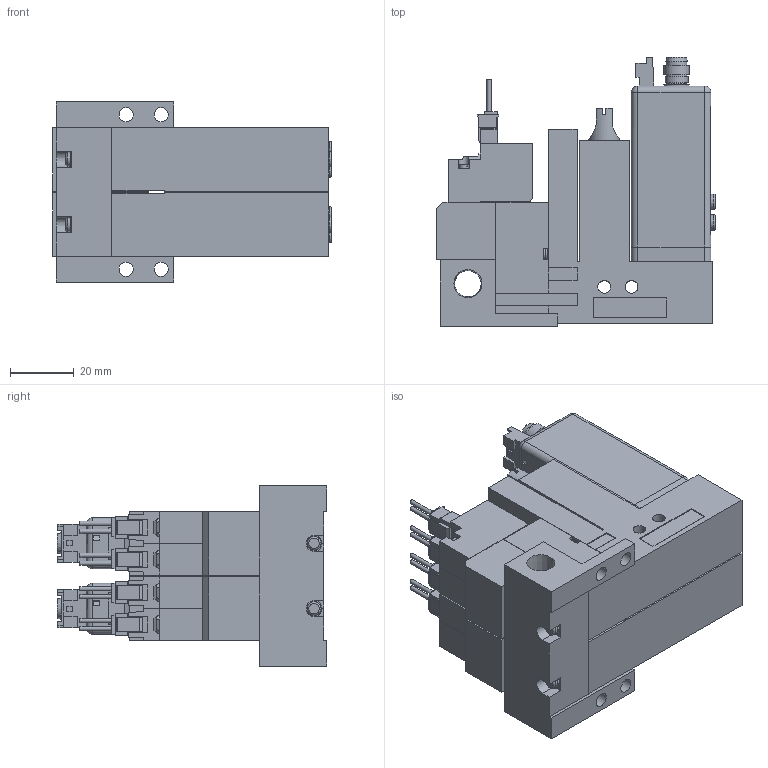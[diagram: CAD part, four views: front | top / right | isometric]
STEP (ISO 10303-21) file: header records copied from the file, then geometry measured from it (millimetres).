
FILE_DESCRIPTION(('STEP AP203'),'1');
FILE_NAME('22_22PL5BLR202.stp','2025-06-12T01:58:31',(' '),(' '),'Spatial InterOp 3D',' ',' ');
FILE_SCHEMA(('CONFIG_CONTROL_DESIGN'));
Length unit declared in the file: millimetre
Products named in the file (6): BMC22M※※※※22_22PL5BLR202; Solenoid valve B; Unit L; Base MR20R; MVS-202
Assembly tree (7 placements, depth 2):
  BMC22M※※※※22_22PL5BLR202
    Solenoid valve B  x2
    Unit L  x2
    Base MR20R
    MVS-202
    MVS-202
Bounding box: 87.5 x 84.6 x 56.5 mm (x, y, z)
Volume: 196346.3 mm3; surface area: 60317 mm2
Topology: 7 solids, 15 shells, 1509 faces, 3931 edges, 2570 vertices
Faces by surface type: plane 1266, cylinder 189, cone 34, torus 12, sphere 8
Full cylindrical faces by diameter (mm): 1 x8, 1.4 x8, 1.5 x2, 2.5 x2, 3 x8, 3.5 x8, 3.6 x2, 4 x4, 4.134 x2, 4.5 x12, 4.8 x6, 5 x4, 5.2 x2, 5.8 x4, 6 x4, 6.5 x6, 6.6 x2, 7 x2, 7.2 x2, 7.9 x2, 8 x4, 8.279 x1
Entity records: 35914 total; most frequent: CARTESIAN_POINT 6471, ORIENTED_EDGE 5892, DIRECTION 5770, EDGE_CURVE 2946, LINE 2498, VECTOR 2498, VERTEX_POINT 1997, AXIS2_PLACEMENT_3D 1636
